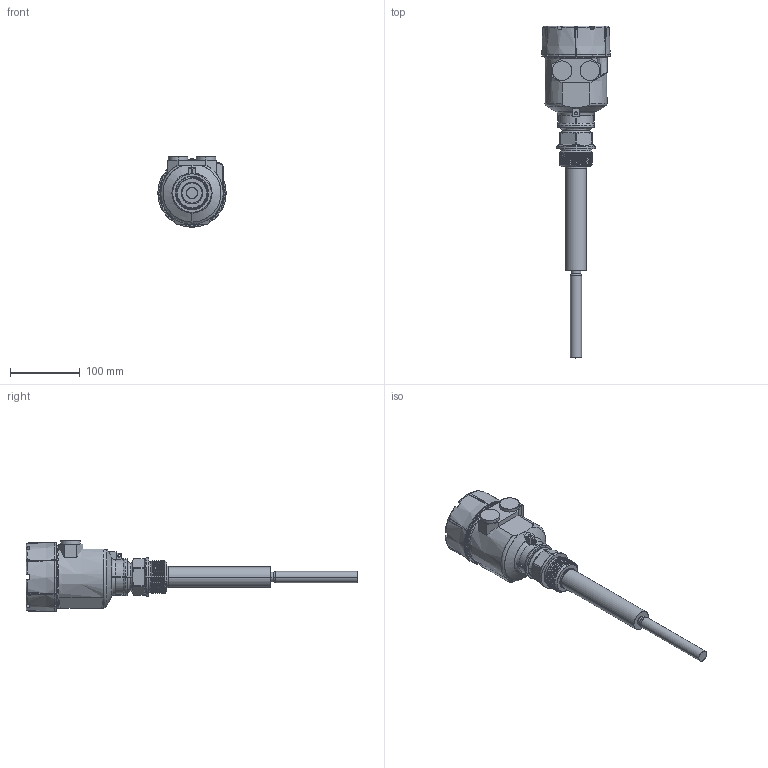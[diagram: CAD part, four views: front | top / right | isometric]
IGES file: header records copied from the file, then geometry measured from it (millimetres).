
Start section: SolidWorks IGES file using analytic representation for surfaces
Global section: file name: E:\HL产品尺寸图\三维外形图 201109\HL121-XXMZ76.IGS; native system: SolidWorks 2016; preprocessor: SolidWorks 2016; author: Administrator; date: 201109.163727; units: millimetre
Bounding box: 98 x 475.5 x 101 mm (x, y, z)
Surface area: 89829.7 mm2 (no closed solid volume)
Topology: 0 solids, 0 shells, 354 faces, 5307 edges, 5307 vertices
Faces by surface type: revolution 192, bspline 162
